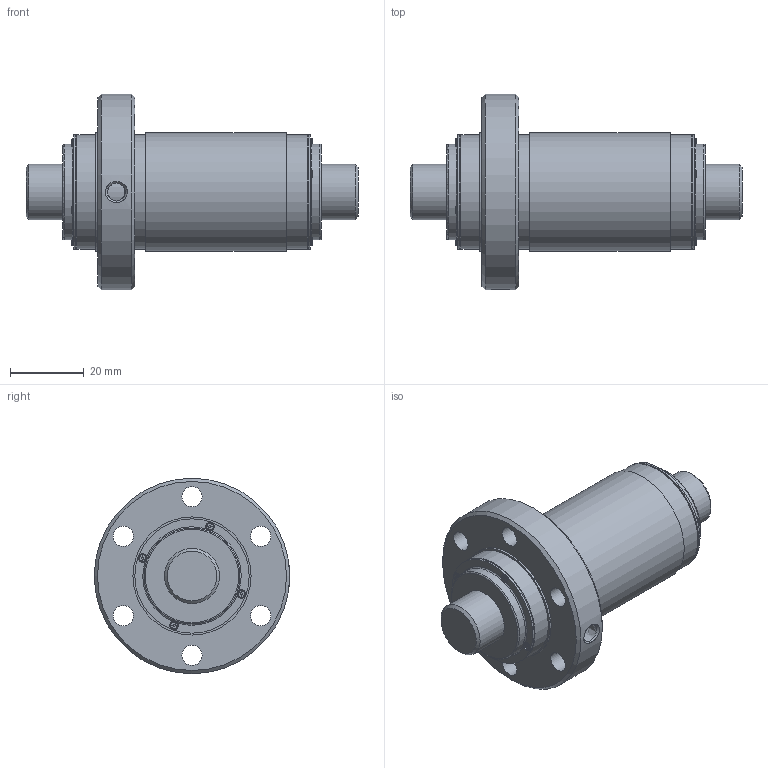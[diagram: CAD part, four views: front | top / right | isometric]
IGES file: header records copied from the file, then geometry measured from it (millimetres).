
Start section: Data from Parasolid IGES Translator 26.0.171, Copyright(c) 2006 Siemens PLM Software. All Rights Reserved.
Global section: file name: CNF1530-6ZZ+90LC7T_000_rev.igs; native system: By Siemens PLM Incorporated; preprocessor: XPlus GENERIC/IGES 26.0.171; author: Noname; organization: Noname; date: 20250611.064359; units: millimetre
Bounding box: 90 x 53 x 53 mm (x, y, z)
Surface area: 20445.2 mm2 (no closed solid volume)
Topology: 0 solids, 0 shells, 211 faces, 1116 edges, 1045 vertices
Faces by surface type: extrusion 125, revolution 86
